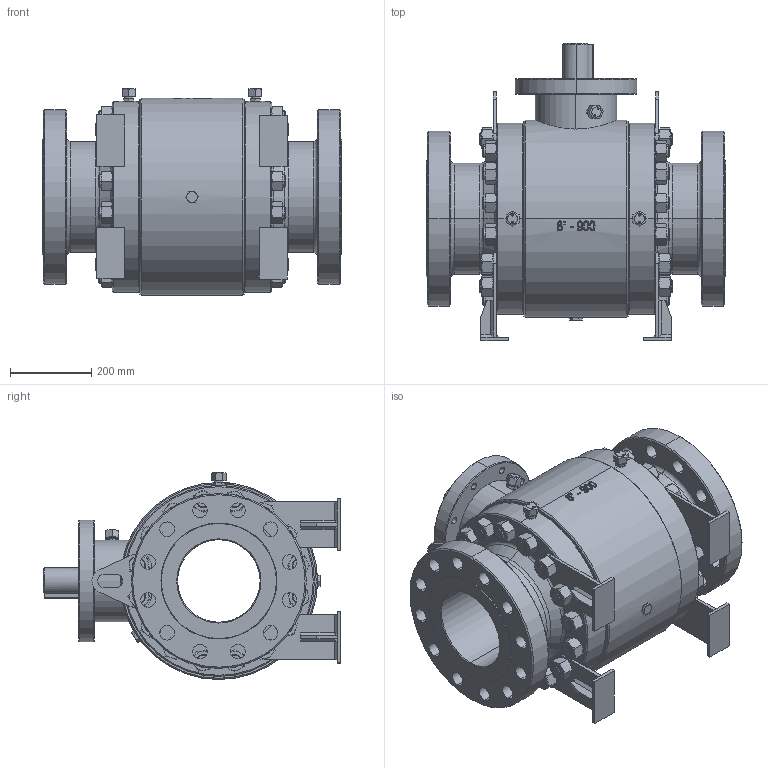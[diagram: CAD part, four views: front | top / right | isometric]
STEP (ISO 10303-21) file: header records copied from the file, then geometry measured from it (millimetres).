
FILE_DESCRIPTION (( 'STEP AP203' ), '1' );
FILE_NAME ('Fig.6090 DN-200 PN-160.STEP', '2017-04-19T15:24:17', ( 'admin' ), ( 'Hewlett-Packard Company' ), 'SwSTEP 2.0', 'SolidWorks 2016', '' );
FILE_SCHEMA (( 'CONFIG_CONTROL_DESIGN' ));
Length unit declared in the file: millimetre
Products named in the file (23): 6090TB200L160; 6060TB200ARG; Engrasador 3_8 NPT-2; 6090TB200B; UN 1.1_4-8_HHNUT 0.8750-9-D-C; Engrasador 3_8 NPT-1; 6090TB200E; DIN 912 M4 x 16_EN ISO 4762 M4 x 16 - 16N; Engrasador 3_8 NPT; 6090TB200FSFF; 6090TB200BAI_Predeterminado<Como mecanizada>; 6090TB200BAD_Predeterminado<Como soldada>; 6090TB200GB; Fig.6090 DN-200 PN-160; DIN 6325 - 14 x 60; 6090TB200PP; DIN 912 M20 x 130 - 52_EN ISO 4762 M20 x 130 - 52N; 1616104CH; SUN1141515050; 6060TB200SA; 6090TB200C; SUN1141595058; Tapón purga 0,75 NPT
Assembly tree (109 placements, depth 3):
  Fig.6090 DN-200 PN-160
    6090TB200C
    6090TB200L160  x2
    6090TB200B
    6090TB200E
    6090TB200FSFF
    6090TB200GB  x13
    6090TB200PP
    1616104CH  x2
    6060TB200SA  x2
    Tapón purga 0,75 NPT  x2
    Engrasador 3_8 NPT  x3
      Engrasador 3_8 NPT-2
      Engrasador 3_8 NPT-1
    6090TB200BAD_Predeterminado<Como soldada>  x2
    DIN 6325 - 14 x 60  x2
    DIN 912 M20 x 130 - 52_EN ISO 4762 M20 x 130 - 52N  x4
    SUN1141515050  x20
    SUN1141595058  x12
    6060TB200ARG  x2
    UN 1.1_4-8_HHNUT 0.8750-9-D-C  x32
    DIN 912 M4 x 16_EN ISO 4762 M4 x 16 - 16N  x2
    6090TB200BAI_Predeterminado<Como mecanizada>  x2
Bounding box: 737 x 730.79 x 509.5 mm (x, y, z)
Volume: 85344254.5 mm3; surface area: 6492487.9 mm2
Topology: 134 solids, 134 shells, 3183 faces, 7171 edges, 4277 vertices
Faces by surface type: plane 1003, cylinder 984, cone 984, torus 140, bspline 58, sphere 14
Entity records: 46052 total; most frequent: CARTESIAN_POINT 12183, DIRECTION 6542, ORIENTED_EDGE 5604, EDGE_CURVE 2802, AXIS2_PLACEMENT_3D 2670, VERTEX_POINT 1754, EDGE_LOOP 1542, CIRCLE 1363
